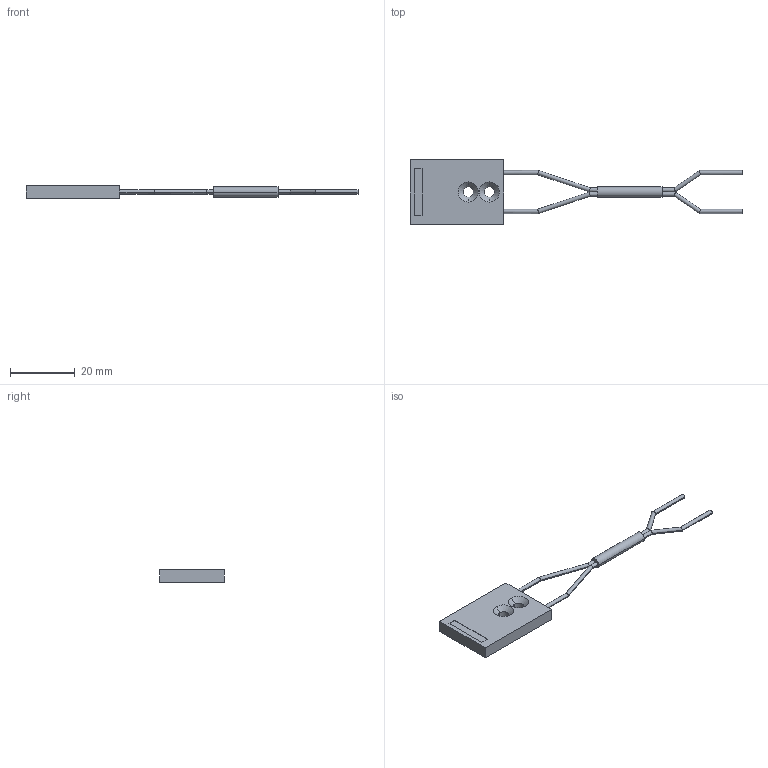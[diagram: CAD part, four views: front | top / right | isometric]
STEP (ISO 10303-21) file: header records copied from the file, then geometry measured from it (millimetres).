
FILE_DESCRIPTION (( 'STEP AP203' ), '1' );
FILE_NAME ('FD-L45.STEP', '2005-09-04T10:07:27', ( '川島良英' ), ( ' ' ), 'SwSTEP 2.0', 'SolidWorks 2004251', '' );
FILE_SCHEMA (( 'CONFIG_CONTROL_DESIGN' ));
Length unit declared in the file: millimetre
Products named in the file (1): FD-L45
Bounding box: 102.55 x 20 x 3.8 mm (x, y, z)
Volume: 2419.4 mm3; surface area: 2238 mm2
Topology: 1 solids, 1 shells, 49 faces, 106 edges, 64 vertices
Faces by surface type: cylinder 30, plane 15, cone 4
Entity records: 1401 total; most frequent: CARTESIAN_POINT 268, DIRECTION 222, ORIENTED_EDGE 212, EDGE_CURVE 106, AXIS2_PLACEMENT_3D 82, VERTEX_POINT 64, EDGE_LOOP 60, VECTOR 58
